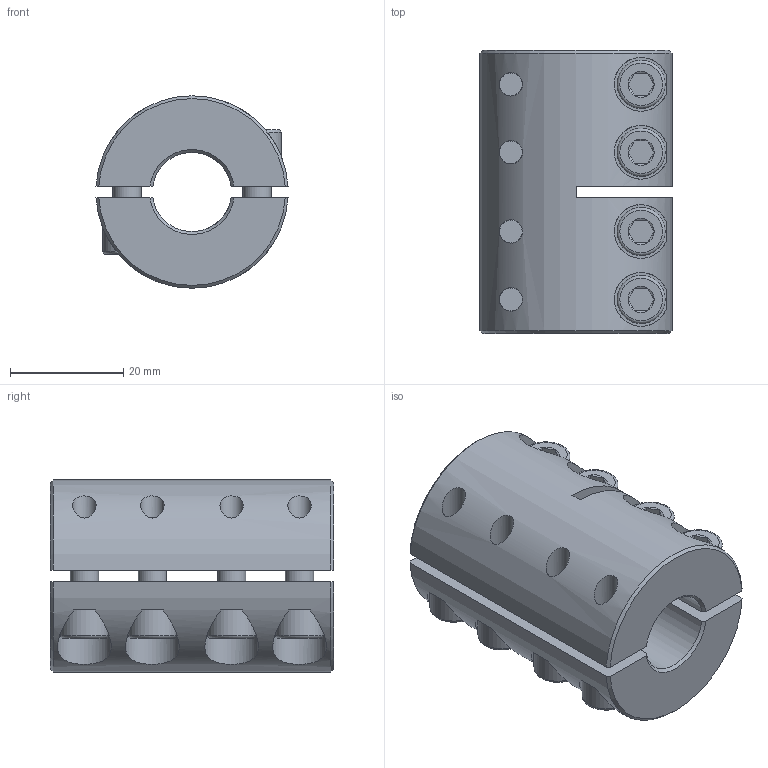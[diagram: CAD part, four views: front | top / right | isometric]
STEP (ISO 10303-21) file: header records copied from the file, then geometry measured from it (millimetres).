
FILE_DESCRIPTION( ( 'Unknown' ), '1' );
FILE_NAME( 'K:/Konstruktion/Fertigungszeichnungen/Schalenkupplung/KBST-G/KBST-G-14.stp', 'Unknown', ( 'Unknown' ), ( 'Unknown' ), 'PSStep 16.0.42', 'Unknown', ' ' );
FILE_SCHEMA( ( 'AUTOMOTIVE_DESIGN { 1 0 10303 214 1 1 1 1 }' ) );
Length unit declared in the file: millimetre
Products named in the file (4): Assem1; ISO EN DIN 4762 M5x12; KBST-G-14
Assembly tree (10 placements, depth 2):
  Assem1
    ISO EN DIN 4762 M5x12  x8
    KBST-G-14
    KBST-G-14
Bounding box: 33.94 x 50 x 34 mm (x, y, z)
Volume: 33251.9 mm3; surface area: 17024.6 mm2
Topology: 10 solids, 10 shells, 228 faces, 452 edges, 268 vertices
Faces by surface type: plane 104, cone 64, cylinder 44, torus 16
Full cylindrical faces by diameter (mm): 4.134 x8, 5 x8, 5.3 x8, 8.5 x8
Entity records: 3954 total; most frequent: CARTESIAN_POINT 1420, DIRECTION 374, ORIENTED_EDGE 318, AXIS2_PLACEMENT_3D 161, EDGE_CURVE 159, EDGE_LOOP 144, VERTEX_POINT 115, FACE_OUTER_BOUND 101
